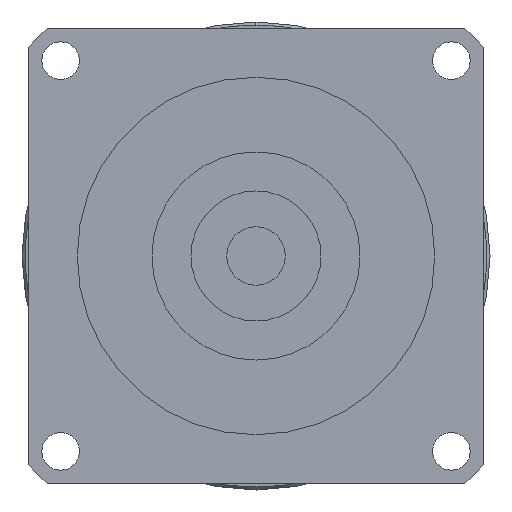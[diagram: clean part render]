
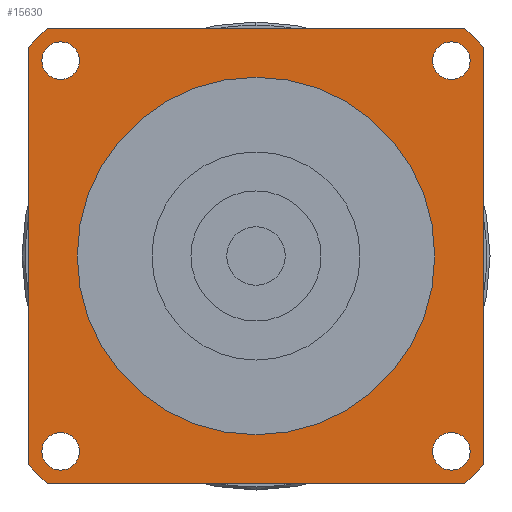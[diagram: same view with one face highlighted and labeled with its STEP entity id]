
A CAD part, left-side view. The second image highlights one B-rep face of the part: STEP entity #15630.
In plain terms, the highlighted planar face has unit normal (-1, 0, 0) as drawn and (0, 0, -1) by its records, which use the part's own axes.
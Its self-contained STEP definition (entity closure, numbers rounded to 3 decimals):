
#12050=CARTESIAN_POINT('',(-32.113,35.,-93.));
#12060=VERTEX_POINT('',#12050);
#12220=CARTESIAN_POINT('',(-35.,32.113,-93.));
#12230=VERTEX_POINT('',#12220);
#12260=CARTESIAN_POINT('',(0.,0.,
-93.));
#12270=DIRECTION('',(0.,0.,1.));
#12280=DIRECTION('',(0.,-1.,0.));
#12290=AXIS2_PLACEMENT_3D('',#12260,#12270,#12280);
#12300=CIRCLE('',#12290,47.5);
#12310=EDGE_CURVE('',#12060,#12230,#12300,.T.);
#12570=CARTESIAN_POINT('',(-35.,-32.113,-93.));
#12580=VERTEX_POINT('',#12570);
#12610=CARTESIAN_POINT('',(-35.,35.,-93.));
#12620=DIRECTION('',(0.,-1.,0.));
#12630=VECTOR('',#12620,1000.);
#12640=LINE('',#12610,#12630);
#12650=EDGE_CURVE('',#12230,#12580,#12640,.T.);
#13940=CARTESIAN_POINT('',(32.113,35.,-93.));
#13950=VERTEX_POINT('',#13940);
#14080=CARTESIAN_POINT('',(35.,35.,-93.));
#14090=DIRECTION('',(-1.,0.,0.));
#14100=VECTOR('',#14090,1000.);
#14110=LINE('',#14080,#14100);
#14120=EDGE_CURVE('',#13950,#12060,#14110,.T.);
#14170=CARTESIAN_POINT('',(-35.,35.,-93.));
#14180=DIRECTION('',(0.,0.,1.));
#14190=DIRECTION('',(-1.,0.,0.));
#14200=AXIS2_PLACEMENT_3D('',#14170,#14180,#14190);
#14210=PLANE('',#14200);
#14220=CARTESIAN_POINT('',(30.052,-30.052,-93.));
#14230=DIRECTION('',(0.,0.,-1.));
#14240=DIRECTION('',(1.,0.,0.));
#14250=AXIS2_PLACEMENT_3D('',#14220,#14230,#14240);
#14260=CIRCLE('',#14250,2.9);
#14270=CARTESIAN_POINT('',(32.952,-30.052,-93.));
#14280=VERTEX_POINT('',#14270);
#14290=CARTESIAN_POINT('',(30.052,-32.952,-93.));
#14300=VERTEX_POINT('',#14290);
#14310=EDGE_CURVE('',#14280,#14300,#14260,.T.);
#14320=ORIENTED_EDGE('',*,*,#14310,.F.);
#14330=CARTESIAN_POINT('',(30.052,-27.152,-93.));
#14340=VERTEX_POINT('',#14330);
#14350=EDGE_CURVE('',#14300,#14340,#14260,.T.);
#14360=ORIENTED_EDGE('',*,*,#14350,.F.);
#14370=EDGE_CURVE('',#14340,#14280,#14260,.T.);
#14380=ORIENTED_EDGE('',*,*,#14370,.F.);
#14390=EDGE_LOOP('',(#14380,#14360,#14320));
#14400=FACE_BOUND('',#14390,.T.);
#14410=CARTESIAN_POINT('',(30.052,30.052,-93.));
#14420=DIRECTION('',(0.,0.,-1.));
#14430=DIRECTION('',(0.,1.,0.));
#14440=AXIS2_PLACEMENT_3D('',#14410,#14420,#14430);
#14450=CIRCLE('',#14440,2.9);
#14460=CARTESIAN_POINT('',(30.052,32.952,-93.));
#14470=VERTEX_POINT('',#14460);
#14480=CARTESIAN_POINT('',(32.952,30.052,-93.));
#14490=VERTEX_POINT('',#14480);
#14500=EDGE_CURVE('',#14470,#14490,#14450,.T.);
#14510=ORIENTED_EDGE('',*,*,#14500,.F.);
#14520=CARTESIAN_POINT('',(27.152,30.052,-93.));
#14530=VERTEX_POINT('',#14520);
#14540=EDGE_CURVE('',#14490,#14530,#14450,.T.);
#14550=ORIENTED_EDGE('',*,*,#14540,.F.);
#14560=EDGE_CURVE('',#14530,#14470,#14450,.T.);
#14570=ORIENTED_EDGE('',*,*,#14560,.F.);
#14580=EDGE_LOOP('',(#14570,#14550,#14510));
#14590=FACE_BOUND('',#14580,.T.);
#14600=CARTESIAN_POINT('',(-30.052,30.052,-93.));
#14610=DIRECTION('',(0.,0.,-1.));
#14620=DIRECTION('',(-1.,0.,0.));
#14630=AXIS2_PLACEMENT_3D('',#14600,#14610,#14620);
#14640=CIRCLE('',#14630,2.9);
#14650=CARTESIAN_POINT('',(-32.952,30.052,-93.));
#14660=VERTEX_POINT('',#14650);
#14670=CARTESIAN_POINT('',(-30.052,32.952,-93.));
#14680=VERTEX_POINT('',#14670);
#14690=EDGE_CURVE('',#14660,#14680,#14640,.T.);
#14700=ORIENTED_EDGE('',*,*,#14690,.F.);
#14710=CARTESIAN_POINT('',(-30.052,27.152,-93.));
#14720=VERTEX_POINT('',#14710);
#14730=EDGE_CURVE('',#14680,#14720,#14640,.T.);
#14740=ORIENTED_EDGE('',*,*,#14730,.F.);
#14750=EDGE_CURVE('',#14720,#14660,#14640,.T.);
#14760=ORIENTED_EDGE('',*,*,#14750,.F.);
#14770=EDGE_LOOP('',(#14760,#14740,#14700));
#14780=FACE_BOUND('',#14770,.T.);
#14790=CARTESIAN_POINT('',(-30.052,-30.052,-93.));
#14800=DIRECTION('',(0.,0.,-1.));
#14810=DIRECTION('',(0.,-1.,0.));
#14820=AXIS2_PLACEMENT_3D('',#14790,#14800,#14810);
#14830=CIRCLE('',#14820,2.9);
#14840=CARTESIAN_POINT('',(-30.052,-32.952,-93.));
#14850=VERTEX_POINT('',#14840);
#14860=CARTESIAN_POINT('',(-32.952,-30.052,-93.));
#14870=VERTEX_POINT('',#14860);
#14880=EDGE_CURVE('',#14850,#14870,#14830,.T.);
#14890=ORIENTED_EDGE('',*,*,#14880,.F.);
#14900=CARTESIAN_POINT('',(-27.152,-30.052,-93.));
#14910=VERTEX_POINT('',#14900);
#14920=EDGE_CURVE('',#14870,#14910,#14830,.T.);
#14930=ORIENTED_EDGE('',*,*,#14920,.F.);
#14940=EDGE_CURVE('',#14910,#14850,#14830,.T.);
#14950=ORIENTED_EDGE('',*,*,#14940,.F.);
#14960=EDGE_LOOP('',(#14950,#14930,#14890));
#14970=FACE_BOUND('',#14960,.T.);
#14980=CARTESIAN_POINT('',(0.,0.,
-93.));
#14990=DIRECTION('',(0.,0.,1.));
#15000=DIRECTION('',(0.,-1.,0.));
#15010=AXIS2_PLACEMENT_3D('',#14980,#14990,#15000);
#15020=CIRCLE('',#15010,47.5);
#15030=CARTESIAN_POINT('',(-32.113,-35.,-93.));
#15040=VERTEX_POINT('',#15030);
#15050=EDGE_CURVE('',#12580,#15040,#15020,.T.);
#15060=ORIENTED_EDGE('',*,*,#15050,.F.);
#15070=CARTESIAN_POINT('',(-35.,-35.,-93.));
#15080=DIRECTION('',(1.,0.,0.));
#15090=VECTOR('',#15080,1000.);
#15100=LINE('',#15070,#15090);
#15110=CARTESIAN_POINT('',(32.113,-35.,-93.));
#15120=VERTEX_POINT('',#15110);
#15130=EDGE_CURVE('',#15040,#15120,#15100,.T.);
#15140=ORIENTED_EDGE('',*,*,#15130,.F.);
#15150=CARTESIAN_POINT('',(0.,0.,
-93.));
#15160=DIRECTION('',(0.,0.,1.));
#15170=DIRECTION('',(0.,-1.,0.));
#15180=AXIS2_PLACEMENT_3D('',#15150,#15160,#15170);
#15190=CIRCLE('',#15180,47.5);
#15200=CARTESIAN_POINT('',(35.,-32.113,-93.));
#15210=VERTEX_POINT('',#15200);
#15220=EDGE_CURVE('',#15120,#15210,#15190,.T.);
#15230=ORIENTED_EDGE('',*,*,#15220,.F.);
#15240=CARTESIAN_POINT('',(35.,-35.,-93.));
#15250=DIRECTION('',(0.,1.,0.));
#15260=VECTOR('',#15250,1000.);
#15270=LINE('',#15240,#15260);
#15280=CARTESIAN_POINT('',(35.,32.113,-93.));
#15290=VERTEX_POINT('',#15280);
#15300=EDGE_CURVE('',#15210,#15290,#15270,.T.);
#15310=ORIENTED_EDGE('',*,*,#15300,.F.);
#15320=CARTESIAN_POINT('',(0.,0.,
-93.));
#15330=DIRECTION('',(0.,0.,1.));
#15340=DIRECTION('',(0.,-1.,0.));
#15350=AXIS2_PLACEMENT_3D('',#15320,#15330,#15340);
#15360=CIRCLE('',#15350,47.5);
#15370=EDGE_CURVE('',#15290,#13950,#15360,.T.);
#15380=ORIENTED_EDGE('',*,*,#15370,.F.);
#15390=ORIENTED_EDGE('',*,*,#14120,.F.);
#15400=ORIENTED_EDGE('',*,*,#12310,.F.);
#15410=ORIENTED_EDGE('',*,*,#12650,.F.);
#15420=EDGE_LOOP('',(#15410,#15400,#15390,#15380,#15310,#15230,#15140,
#15060));
#15430=FACE_OUTER_BOUND('',#15420,.T.);
#15440=CARTESIAN_POINT('',(0.,0.,
-93.));
#15450=DIRECTION('',(0.,0.,1.));
#15460=DIRECTION('',(0.,-1.,0.));
#15470=AXIS2_PLACEMENT_3D('',#15440,#15450,#15460);
#15480=CIRCLE('',#15470,27.5);
#15490=CARTESIAN_POINT('',(27.5,0.,-93.));
#15500=VERTEX_POINT('',#15490);
#15510=CARTESIAN_POINT('',(-27.5,0.,-93.));
#15520=VERTEX_POINT('',#15510);
#15530=EDGE_CURVE('',#15500,#15520,#15480,.T.);
#15540=ORIENTED_EDGE('',*,*,#15530,.T.);
#15550=CARTESIAN_POINT('',(0.,-27.5,-93.));
#15560=VERTEX_POINT('',#15550);
#15570=EDGE_CURVE('',#15560,#15500,#15480,.T.);
#15580=ORIENTED_EDGE('',*,*,#15570,.T.);
#15590=EDGE_CURVE('',#15520,#15560,#15480,.T.);
#15600=ORIENTED_EDGE('',*,*,#15590,.T.);
#15610=EDGE_LOOP('',(#15600,#15580,#15540));
#15620=FACE_BOUND('',#15610,.T.);
#15630=ADVANCED_FACE('',(#14400,#14590,#14780,#14970,#15430,#15620),
#14210,.F.);
